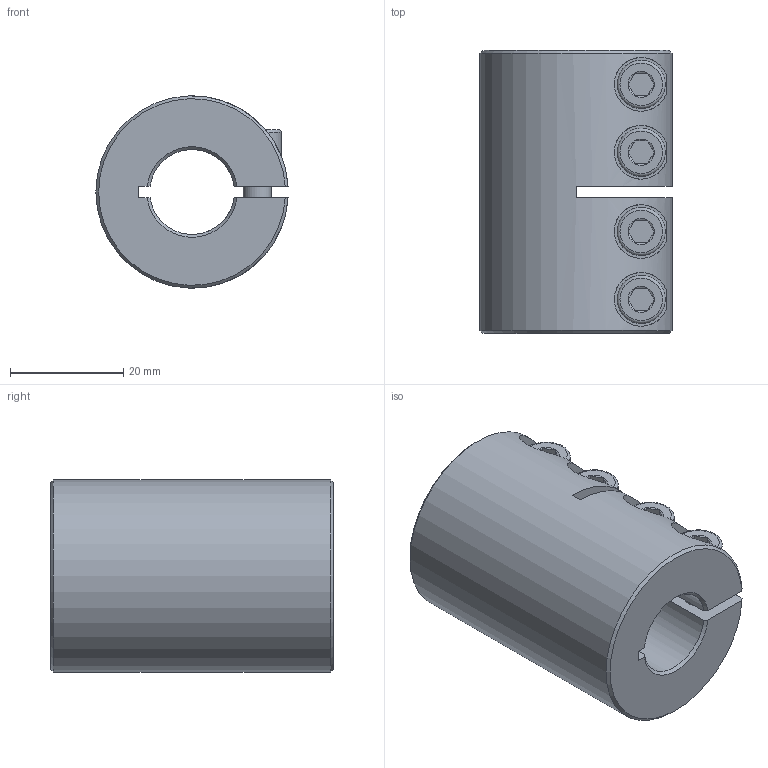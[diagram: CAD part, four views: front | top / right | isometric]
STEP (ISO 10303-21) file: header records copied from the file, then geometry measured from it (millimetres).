
FILE_DESCRIPTION( ( 'Unknown' ), '1' );
FILE_NAME( 'K:/Konstruktion/Fertigungszeichnungen/Schalenkupplung/KBST/KBST-15.stp', 'Unknown', ( 'Unknown' ), ( 'Unknown' ), 'PSStep 16.0.42', 'Unknown', ' ' );
FILE_SCHEMA( ( 'AUTOMOTIVE_DESIGN { 1 0 10303 214 1 1 1 1 }' ) );
Length unit declared in the file: millimetre
Products named in the file (3): Assem1; ISO EN DIN 4762 M5x16; KBST-15
Assembly tree (5 placements, depth 2):
  Assem1
    ISO EN DIN 4762 M5x16  x4
    KBST-15
Bounding box: 33.97 x 50 x 34 mm (x, y, z)
Volume: 34140.5 mm3; surface area: 13764.7 mm2
Topology: 5 solids, 5 shells, 124 faces, 258 edges, 156 vertices
Faces by surface type: plane 59, cone 34, cylinder 23, torus 8
Full cylindrical faces by diameter (mm): 4.134 x4, 5 x4, 5.3 x4, 8.5 x4
Entity records: 2744 total; most frequent: CARTESIAN_POINT 841, DIRECTION 282, ORIENTED_EDGE 250, EDGE_CURVE 125, AXIS2_PLACEMENT_3D 116, EDGE_LOOP 96, VERTEX_POINT 87, FACE_OUTER_BOUND 73
